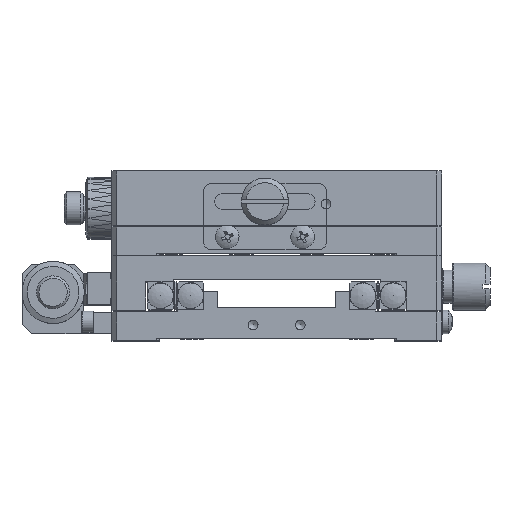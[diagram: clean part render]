
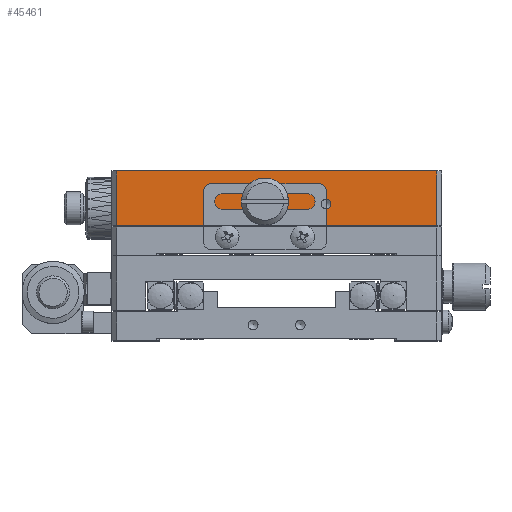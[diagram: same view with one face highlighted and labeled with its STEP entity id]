
A CAD part, top view. The second image highlights one B-rep face of the part: STEP entity #45461.
In plain terms, the highlighted planar face has unit normal (0, 0, 1).
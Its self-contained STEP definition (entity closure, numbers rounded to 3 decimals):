
#1568 = EDGE_CURVE ( 'NONE', #90733, #20207, #46244, .T. ) ;
#2294 = VECTOR ( 'NONE', #82039, 1000. ) ;
#6545 = ORIENTED_EDGE ( 'NONE', *, *, #1568, .T. ) ;
#8167 = AXIS2_PLACEMENT_3D ( 'NONE', #29835, #81624, #118989 ) ;
#14922 = VECTOR ( 'NONE', #164204, 1000. ) ;
#20207 = VERTEX_POINT ( 'NONE', #47396 ) ;
#21742 = VERTEX_POINT ( 'NONE', #73507 ) ;
#22823 = EDGE_LOOP ( 'NONE', ( #167819 ) ) ;
#25487 = VERTEX_POINT ( 'NONE', #39078 ) ;
#28773 = AXIS2_PLACEMENT_3D ( 'NONE', #134540, #83591, #121782 ) ;
#29835 = CARTESIAN_POINT ( 'NONE',  ( 45.5, 22.9, 70. ) ) ;
#29906 = FACE_OUTER_BOUND ( 'NONE', #112699, .T. ) ;
#31600 = PLANE ( 'NONE',  #42566 ) ;
#33840 = EDGE_CURVE ( 'NONE', #160412, #160412, #101994, .T. ) ;
#38336 = ORIENTED_EDGE ( 'NONE', *, *, #108536, .F. ) ;
#39078 = CARTESIAN_POINT ( 'NONE',  ( 30.525, 22.9, 70. ) ) ;
#40676 = CIRCLE ( 'NONE', #8167, 1.025 ) ;
#42566 = AXIS2_PLACEMENT_3D ( 'NONE', #158936, #55379, #147906 ) ;
#45461 = ADVANCED_FACE ( 'NONE', ( #130157, #52889, #94442, #29906 ), #31600, .F. ) ;
#45799 = CARTESIAN_POINT ( 'NONE',  ( 33.75, 23.4, 70. ) ) ;
#46244 = LINE ( 'NONE', #163363, #14922 ) ;
#47396 = CARTESIAN_POINT ( 'NONE',  ( 1., 18.3, 70. ) ) ;
#50231 = DIRECTION ( 'NONE',  ( 0., 0., 1. ) ) ;
#51447 = EDGE_CURVE ( 'NONE', #20207, #143362, #72024, .T. ) ;
#52889 = FACE_BOUND ( 'NONE', #61509, .T. ) ;
#53850 = ORIENTED_EDGE ( 'NONE', *, *, #71730, .T. ) ;
#55379 = DIRECTION ( 'NONE',  ( 0., 0., -1. ) ) ;
#56567 = LINE ( 'NONE', #162645, #2294 ) ;
#60973 = CARTESIAN_POINT ( 'NONE',  ( 0., 18.3, 70. ) ) ;
#61509 = EDGE_LOOP ( 'NONE', ( #38336 ) ) ;
#62221 = CARTESIAN_POINT ( 'NONE',  ( 1., 29.9, 70. ) ) ;
#64599 = VECTOR ( 'NONE', #138239, 1000. ) ;
#65587 = VERTEX_POINT ( 'NONE', #99207 ) ;
#71730 = EDGE_CURVE ( 'NONE', #143362, #65587, #122476, .T. ) ;
#72024 = LINE ( 'NONE', #60973, #64599 ) ;
#73507 = CARTESIAN_POINT ( 'NONE',  ( 46.525, 22.9, 70. ) ) ;
#80656 = EDGE_CURVE ( 'NONE', #90733, #65587, #56567, .T. ) ;
#81624 = DIRECTION ( 'NONE',  ( 0., 0., 1. ) ) ;
#82039 = DIRECTION ( 'NONE',  ( 1., 0., 0. ) ) ;
#83591 = DIRECTION ( 'NONE',  ( 0., 0., 1. ) ) ;
#86137 = CARTESIAN_POINT ( 'NONE',  ( 29.5, 22.9, 70. ) ) ;
#86139 = EDGE_LOOP ( 'NONE', ( #144667 ) ) ;
#90733 = VERTEX_POINT ( 'NONE', #62221 ) ;
#94442 = FACE_BOUND ( 'NONE', #86139, .T. ) ;
#94504 = CARTESIAN_POINT ( 'NONE',  ( 69., 29.9, 70. ) ) ;
#98906 = DIRECTION ( 'NONE',  ( 1., 0., 0. ) ) ;
#99207 = CARTESIAN_POINT ( 'NONE',  ( 69., 29.9, 70. ) ) ;
#100671 = ORIENTED_EDGE ( 'NONE', *, *, #51447, .T. ) ;
#101627 = ORIENTED_EDGE ( 'NONE', *, *, #80656, .F. ) ;
#101994 = CIRCLE ( 'NONE', #28773, 1.25 ) ;
#108536 = EDGE_CURVE ( 'NONE', #25487, #25487, #119058, .T. ) ;
#112699 = EDGE_LOOP ( 'NONE', ( #101627, #6545, #100671, #53850 ) ) ;
#118989 = DIRECTION ( 'NONE',  ( 1., 0., 0. ) ) ;
#119058 = CIRCLE ( 'NONE', #148907, 1.025 ) ;
#121782 = DIRECTION ( 'NONE',  ( 1., 0., 0. ) ) ;
#122476 = LINE ( 'NONE', #94504, #126289 ) ;
#126289 = VECTOR ( 'NONE', #162356, 1000. ) ;
#130157 = FACE_BOUND ( 'NONE', #22823, .T. ) ;
#134540 = CARTESIAN_POINT ( 'NONE',  ( 32.5, 23.4, 70. ) ) ;
#138239 = DIRECTION ( 'NONE',  ( 1., 0., 0. ) ) ;
#140089 = CARTESIAN_POINT ( 'NONE',  ( 69., 18.3, 70. ) ) ;
#143362 = VERTEX_POINT ( 'NONE', #140089 ) ;
#144667 = ORIENTED_EDGE ( 'NONE', *, *, #33840, .F. ) ;
#144800 = EDGE_CURVE ( 'NONE', #21742, #21742, #40676, .T. ) ;
#147906 = DIRECTION ( 'NONE',  ( -1., 0., 0. ) ) ;
#148907 = AXIS2_PLACEMENT_3D ( 'NONE', #86137, #50231, #98906 ) ;
#158936 = CARTESIAN_POINT ( 'NONE',  ( 0., 29.9, 70. ) ) ;
#160412 = VERTEX_POINT ( 'NONE', #45799 ) ;
#162356 = DIRECTION ( 'NONE',  ( 0., 1., 0. ) ) ;
#162645 = CARTESIAN_POINT ( 'NONE',  ( 0., 29.9, 70. ) ) ;
#163363 = CARTESIAN_POINT ( 'NONE',  ( 1., 29.9, 70. ) ) ;
#164204 = DIRECTION ( 'NONE',  ( 0., -1., 0. ) ) ;
#167819 = ORIENTED_EDGE ( 'NONE', *, *, #144800, .F. ) ;
